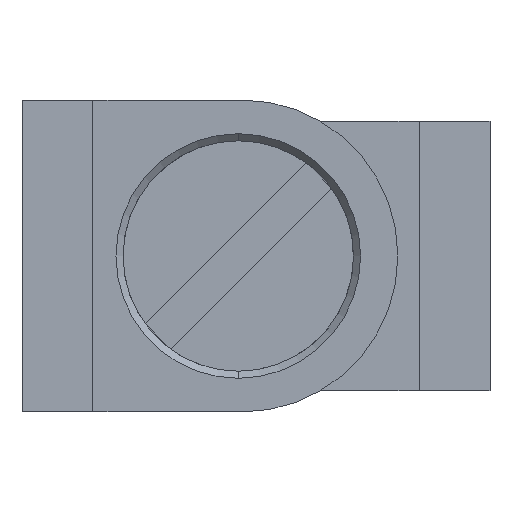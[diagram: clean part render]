
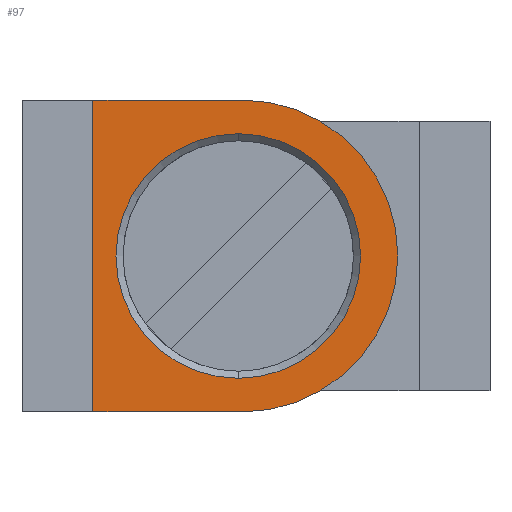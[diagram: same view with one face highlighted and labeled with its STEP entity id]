
A CAD part, front view. The second image highlights one B-rep face of the part: STEP entity #97.
In plain terms, the highlighted planar face has unit normal (0, -1, 0).
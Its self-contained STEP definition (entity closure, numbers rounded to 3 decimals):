
#97=ADVANCED_FACE('NONE',(#197,#198),#199,.F.);
#197=FACE_OUTER_BOUND('',#375,.T.);
#198=FACE_BOUND('',#376,.T.);
#199=PLANE('',#377);
#375=EDGE_LOOP('',(#630,#631,#632,#633,#634));
#376=EDGE_LOOP('',(#635,#636));
#377=AXIS2_PLACEMENT_3D('',#637,#638,#639);
#630=ORIENTED_EDGE('',*,*,#1245,.T.);
#631=ORIENTED_EDGE('',*,*,#1246,.T.);
#632=ORIENTED_EDGE('',*,*,#1247,.T.);
#633=ORIENTED_EDGE('',*,*,#1248,.F.);
#634=ORIENTED_EDGE('',*,*,#1249,.T.);
#635=ORIENTED_EDGE('',*,*,#1193,.T.);
#636=ORIENTED_EDGE('',*,*,#1250,.T.);
#637=CARTESIAN_POINT('',(-4.1,-9.75,4.4));
#638=DIRECTION('',(-0.0,1.0,0.0));
#639=DIRECTION('',(1.0,0.0,0.0));
#1193=EDGE_CURVE('NONE',#1410,#1408,#1411,.T.);
#1245=EDGE_CURVE('NONE',#1506,#1507,#1508,.T.);
#1246=EDGE_CURVE('NONE',#1507,#1509,#1510,.T.);
#1247=EDGE_CURVE('NONE',#1509,#1511,#1512,.T.);
#1248=EDGE_CURVE('NONE',#1513,#1511,#1514,.T.);
#1249=EDGE_CURVE('NONE',#1513,#1506,#1515,.T.);
#1250=EDGE_CURVE('NONE',#1408,#1410,#1516,.T.);
#1408=VERTEX_POINT('NONE',#1755);
#1410=VERTEX_POINT('NONE',#1758);
#1411=CIRCLE('',#1759,3.45);
#1506=VERTEX_POINT('NONE',#1880);
#1507=VERTEX_POINT('NONE',#1881);
#1508=LINE('',#1882,#1883);
#1509=VERTEX_POINT('NONE',#1884);
#1510=CIRCLE('',#1885,4.4);
#1511=VERTEX_POINT('NONE',#1886);
#1512=CIRCLE('',#1887,4.4);
#1513=VERTEX_POINT('NONE',#1888);
#1514=LINE('',#1889,#1890);
#1515=LINE('',#1891,#1892);
#1516=CIRCLE('',#1893,3.45);
#1755=CARTESIAN_POINT('',(0.0,-9.75,3.45));
#1758=CARTESIAN_POINT('',(0.0,-9.75,-3.45));
#1759=AXIS2_PLACEMENT_3D('',#2210,#2211,#2212);
#1880=CARTESIAN_POINT('',(-4.1,-9.75,-4.4));
#1881=CARTESIAN_POINT('',(0.1,-9.75,-4.4));
#1882=CARTESIAN_POINT('',(-4.1,-9.75,-4.4));
#1883=VECTOR('',#2314,1000.0);
#1884=CARTESIAN_POINT('',(4.5,-9.75,0.0));
#1885=AXIS2_PLACEMENT_3D('',#2315,#2316,#2317);
#1886=CARTESIAN_POINT('',(0.1,-9.75,4.4));
#1887=AXIS2_PLACEMENT_3D('',#2318,#2319,#2320);
#1888=CARTESIAN_POINT('',(-4.1,-9.75,4.4));
#1889=CARTESIAN_POINT('',(-4.1,-9.75,4.4));
#1890=VECTOR('',#2321,1000.0);
#1891=CARTESIAN_POINT('',(-4.1,-9.75,4.4));
#1892=VECTOR('',#2322,1000.0);
#1893=AXIS2_PLACEMENT_3D('',#2323,#2324,#2325);
#2210=CARTESIAN_POINT('',(0.0,-9.75,0.0));
#2211=DIRECTION('',(0.0,1.0,0.0));
#2212=DIRECTION('',(0.0,0.0,1.0));
#2314=DIRECTION('',(1.0,0.0,0.0));
#2315=CARTESIAN_POINT('',(0.1,-9.75,0.0));
#2316=DIRECTION('',(0.0,-1.0,0.0));
#2317=DIRECTION('',(0.0,0.0,1.0));
#2318=CARTESIAN_POINT('',(0.1,-9.75,0.0));
#2319=DIRECTION('',(0.0,-1.0,0.0));
#2320=DIRECTION('',(0.0,0.0,1.0));
#2321=DIRECTION('',(1.0,0.0,0.0));
#2322=DIRECTION('',(-0.0,-0.0,-1.0));
#2323=CARTESIAN_POINT('',(0.0,-9.75,0.0));
#2324=DIRECTION('',(0.0,1.0,0.0));
#2325=DIRECTION('',(0.0,0.0,1.0));
